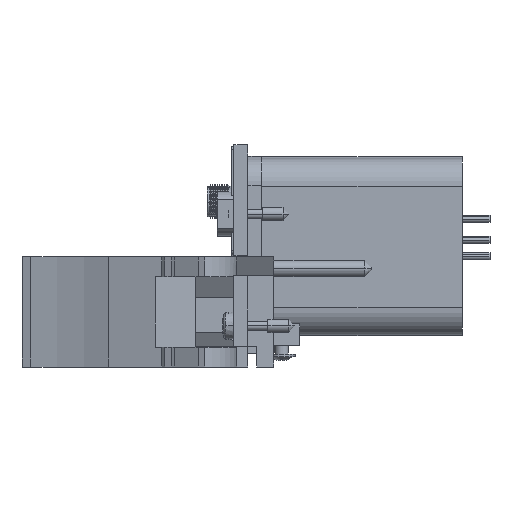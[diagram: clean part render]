
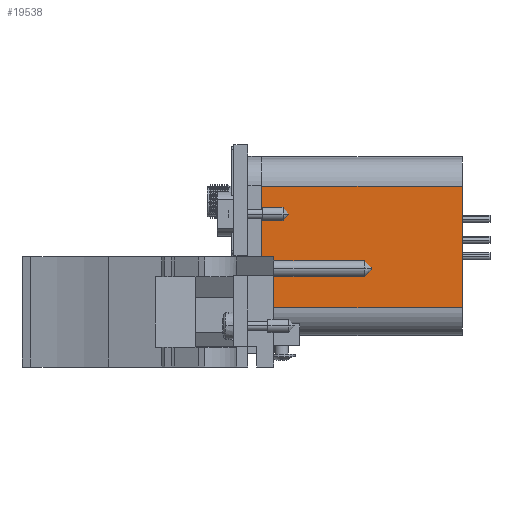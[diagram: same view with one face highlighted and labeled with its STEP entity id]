
A CAD part, front view. The second image highlights one B-rep face of the part: STEP entity #19538.
In plain terms, the highlighted planar face has unit normal (0, -1, 0).
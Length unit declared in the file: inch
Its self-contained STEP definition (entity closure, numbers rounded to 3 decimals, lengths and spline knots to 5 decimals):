
#4331=DIRECTION('',(0.,0.,-1.));
#4332=VECTOR('',#4331,0.86965);
#4333=CARTESIAN_POINT('',(-0.00157,-3.35358,
1.20072));
#4334=LINE('',#4333,#4332);
#4380=DIRECTION('',(0.,0.,-1.));
#4381=VECTOR('',#4380,0.86965);
#4382=CARTESIAN_POINT('',(1.43543,-3.35358,1.20072));
#4383=LINE('',#4382,#4381);
#4440=DIRECTION('',(-1.,0.,0.));
#4441=VECTOR('',#4440,1.43701);
#4442=CARTESIAN_POINT('',(1.43543,-3.35358,1.20072));
#4443=LINE('',#4442,#4441);
#4444=DIRECTION('',(-1.,0.,0.));
#4445=VECTOR('',#4444,1.43701);
#4446=CARTESIAN_POINT('',(1.43543,-3.35358,
0.33107));
#4447=LINE('',#4446,#4445);
#12752=CARTESIAN_POINT('',(1.43543,-3.35358,
1.20072));
#12753=VERTEX_POINT('',#12752);
#12754=CARTESIAN_POINT('',(-0.00157,-3.35358,
1.20072));
#12755=VERTEX_POINT('',#12754);
#12772=CARTESIAN_POINT('',(1.43543,-3.35358,
0.33107));
#12773=CARTESIAN_POINT('',(-0.00157,-3.35358,
0.33107));
#12774=VERTEX_POINT('',#12772);
#12775=VERTEX_POINT('',#12773);
#19526=CARTESIAN_POINT('',(-0.00157,-3.35358,
1.40072));
#19527=DIRECTION('',(0.,-1.,0.));
#19528=DIRECTION('',(0.,0.,-1.));
#19529=AXIS2_PLACEMENT_3D('',#19526,#19527,#19528);
#19530=PLANE('',#19529);
#19531=ORIENTED_EDGE('',*,*,#19482,.F.);
#19532=ORIENTED_EDGE('',*,*,#19451,.T.);
#19534=ORIENTED_EDGE('',*,*,#19533,.T.);
#19535=ORIENTED_EDGE('',*,*,#19398,.F.);
#19536=EDGE_LOOP('',(#19531,#19532,#19534,#19535));
#19537=FACE_OUTER_BOUND('',#19536,.F.);
#19538=ADVANCED_FACE('',(#19537),#19530,.T.);
#19398=EDGE_CURVE('',#12755,#12775,#4334,.T.);
#19451=EDGE_CURVE('',#12753,#12774,#4383,.T.);
#19482=EDGE_CURVE('',#12753,#12755,#4443,.T.);
#19533=EDGE_CURVE('',#12774,#12775,#4447,.T.);
